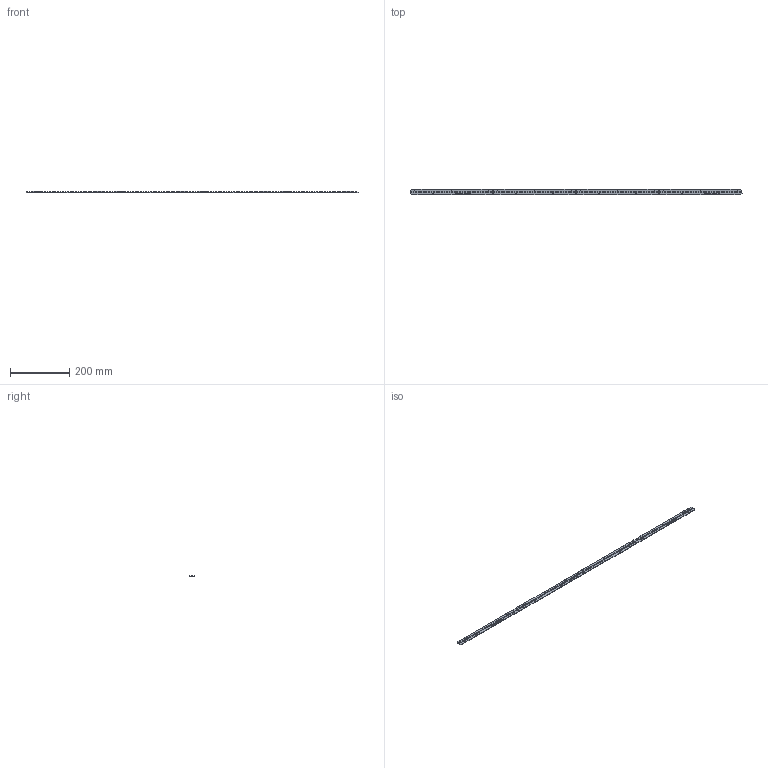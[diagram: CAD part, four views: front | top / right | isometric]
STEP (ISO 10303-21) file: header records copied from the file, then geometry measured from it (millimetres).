
FILE_DESCRIPTION (( 'STEP AP214' ), '1' );
FILE_NAME ('VB128 (L2-0355).step', '2025-11-18T19:04:56', ( '' ), ( '' ), 'SwSTEP 2.0', 'SolidWorks 2022', '' );
FILE_SCHEMA (( 'AUTOMOTIVE_DESIGN' ));
Length unit declared in the file: millimetre
Products named in the file (1): VB128 (L2-0355)
Bounding box: 1120.01 x 20.01 x 4.6 mm (x, y, z)
Volume: 37092.7 mm3; surface area: 53479.1 mm2
Topology: 167 solids, 167 shells, 1548 faces, 3642 edges, 2428 vertices
Faces by surface type: plane 1456, cylinder 92
Entity records: 45250 total; most frequent: CARTESIAN_POINT 7619, ORIENTED_EDGE 7284, DIRECTION 6924, EDGE_CURVE 3642, LINE 3458, VECTOR 3458, VERTEX_POINT 2428, AXIS2_PLACEMENT_3D 1733
